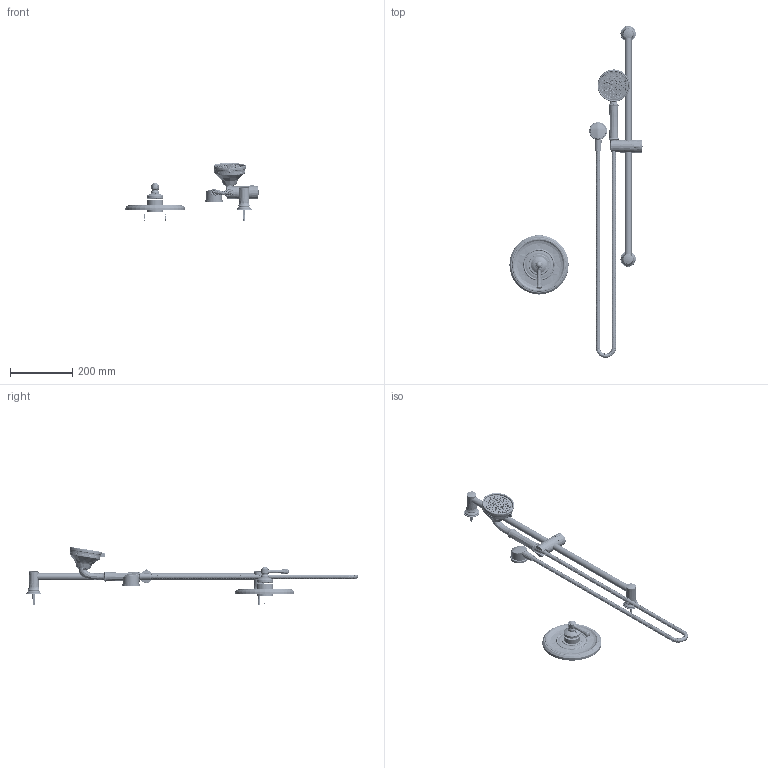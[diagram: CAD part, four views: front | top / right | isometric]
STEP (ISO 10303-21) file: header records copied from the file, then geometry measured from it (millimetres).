
FILE_DESCRIPTION (( 'STEP AP214' ), '1' );
FILE_NAME ('5893TRM.STEP', '2025-01-06T03:52:32', ( '' ), ( '' ), 'SwSTEP 2.0', 'SolidWorks 2023', '' );
FILE_SCHEMA (( 'AUTOMOTIVE_DESIGN' ));
Products named in the file (1): 5893TRM
Bounding box: 428.35 x 1068.16 x 186.89 mm (x, y, z)
Surface area: 412231.2 mm2 (no closed solid volume)
Topology: 0 solids, 238 shells, 1607 faces, 5122 edges, 3648 vertices
Faces by surface type: cylinder 438, plane 367, bspline 358, cone 289, torus 146, sphere 9
Entity records: 212783 total; most frequent: CARTESIAN_POINT 171041, DIRECTION 8249, ORIENTED_EDGE 8154, EDGE_CURVE 5110, VERTEX_POINT 3645, AXIS2_PLACEMENT_3D 3382, CIRCLE 2132, EDGE_LOOP 1863
